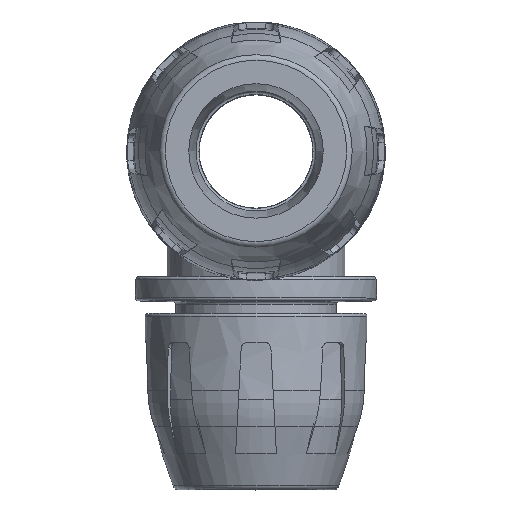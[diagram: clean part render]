
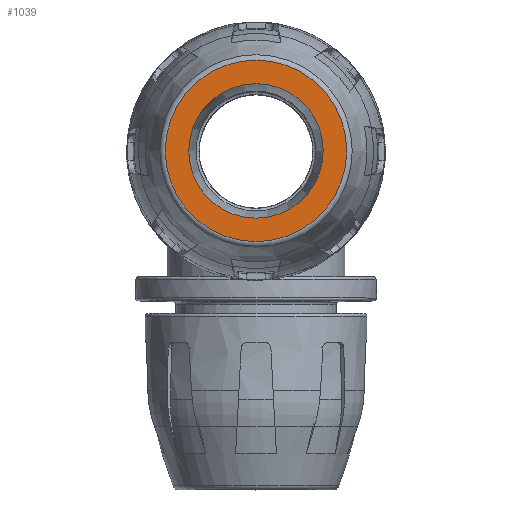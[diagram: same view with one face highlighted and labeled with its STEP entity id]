
A CAD part, top view. The second image highlights one B-rep face of the part: STEP entity #1039.
In plain terms, the highlighted planar face has unit normal (0, 0, 1).
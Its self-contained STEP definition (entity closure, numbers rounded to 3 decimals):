
#1039 = ADVANCED_FACE( '', ( #2662, #2663 ), #2664, .F. );
#2662 = FACE_BOUND( '', #5938, .T. );
#2663 = FACE_OUTER_BOUND( '', #5939, .T. );
#2664 = PLANE( '', #5940 );
#5938 = EDGE_LOOP( '', ( #12856 ) );
#5939 = EDGE_LOOP( '', ( #12857 ) );
#5940 = AXIS2_PLACEMENT_3D( '', #12858, #12859, #12860 );
#12856 = ORIENTED_EDGE( '', *, *, #18741, .T. );
#12857 = ORIENTED_EDGE( '', *, *, #18742, .T. );
#12858 = CARTESIAN_POINT( '', ( 16.304, 0., 14.78 ) );
#12859 = DIRECTION( '', ( 0., 0., -1. ) );
#12860 = DIRECTION( '', ( 1., 0., 0. ) );
#18741 = EDGE_CURVE( '', #21801, #21801, #21802, .T. );
#18742 = EDGE_CURVE( '', #21803, #21803, #21804, .F. );
#21801 = VERTEX_POINT( '', #27475 );
#21802 = CIRCLE( '', #27476, 11.556 );
#21803 = VERTEX_POINT( '', #27477 );
#21804 = CIRCLE( '', #27478, 15.591 );
#27475 = CARTESIAN_POINT( '', ( -11.556, 0., 14.78 ) );
#27476 = AXIS2_PLACEMENT_3D( '', #34473, #34474, #34475 );
#27477 = CARTESIAN_POINT( '', ( -15.591, 0., 14.78 ) );
#27478 = AXIS2_PLACEMENT_3D( '', #34476, #34477, #34478 );
#34473 = CARTESIAN_POINT( '', ( 0., 0., 14.78 ) );
#34474 = DIRECTION( '', ( 0., 0., -1. ) );
#34475 = DIRECTION( '', ( -1., 0., 0. ) );
#34476 = CARTESIAN_POINT( '', ( 0., 0., 14.78 ) );
#34477 = DIRECTION( '', ( 0., 0., -1. ) );
#34478 = DIRECTION( '', ( -1., 0., 0. ) );
